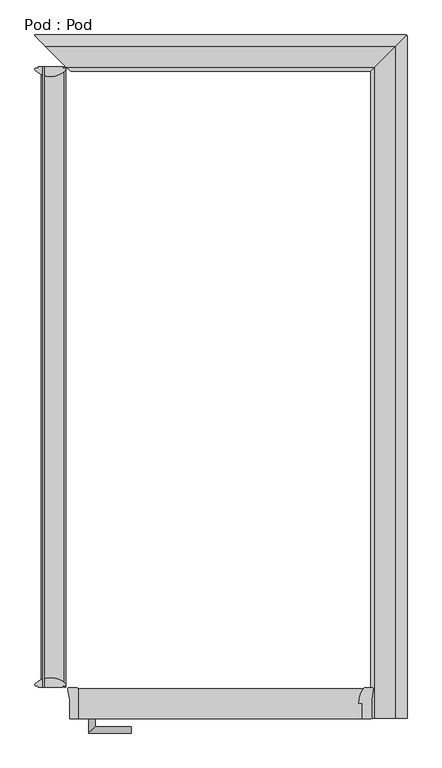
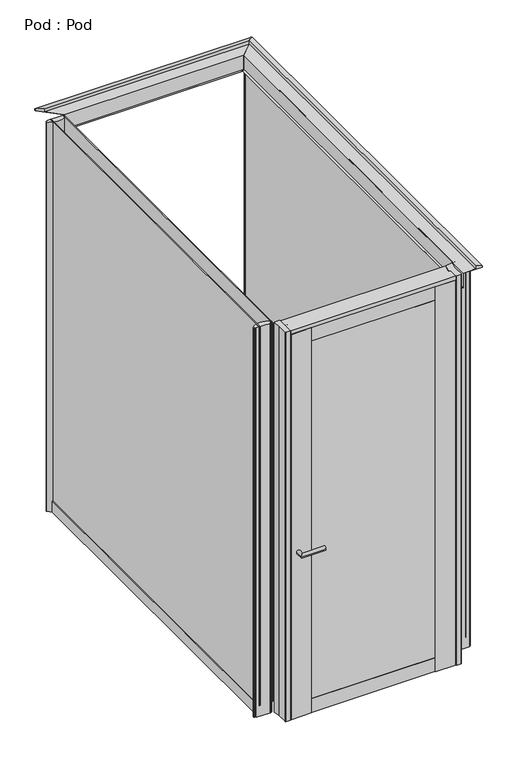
"""IFC4 building model written with IfcOpenShell, lengths in millimetres: furniture geometry, Pod : Pod."""

from ifc_helpers import new_model, si_unit, point, frame, frame_2d, origin, place, context, project, spatial, polyline, circle_curve, ellipse_curve, trimmed, segment, composite_curve, outline, extrude, source, transform, mapped, element, save
from ifc_brep_helpers import plane_surface, cylinder_surface, revolved_surface, extruded_surface, advanced_brep


def pod_pod_1f5b962f(model_context):
    return source(origin(), model_context, "Body", "SolidModel", [
        extrude(outline(composite_curve([segment(polyline([(435.0, -1000.5), (424.4043081, -1000.5)]), True, "CONTINUOUS"), segment(trimmed(circle_curve(frame_2d((496.7618096, -997.1280891)), 72.4360256), [point((424.4043081, -1000.5))], [point((439.9047305, -952.2476885))], False, "CARTESIAN"), True, "CONTINUOUS"), segment(polyline([(439.9047305, -952.2476885), (465.3741971, -952.2476885)]), True, "CONTINUOUS"), segment(trimmed(circle_curve(frame_2d((461.5364267, -958.3971365)), 7.2487373), [point((465.3741971, -952.2476885))], [point((468.7808901, -958.1482537))], False, "CARTESIAN"), True, "CONTINUOUS"), segment(polyline([(468.7808901, -958.1482537), (463.0, -988.5), (463.0, -1046.5)]), True, "CONTINUOUS"), segment(trimmed(circle_curve(frame_2d((461.0, -1046.5)), 2.0), [point((463.0, -1046.5))], [point((461.0, -1048.5))], False, "CARTESIAN"), True, "CONTINUOUS"), segment(polyline([(461.0, -1048.5), (437.0, -1048.5)]), True, "CONTINUOUS"), segment(trimmed(circle_curve(frame_2d((437.0, -1046.5)), 2.0), [point((437.0, -1048.5))], [point((435.0, -1046.5))], False, "CARTESIAN"), True, "CONTINUOUS"), segment(polyline([(435.0, -1046.5), (435.0, -1000.5)]), True, "CONTINUOUS")], self_intersect=False)), frame((0.0, 0.0, 33.1), z_axis=(0.0, 0.0, 1.0), x_axis=(1.0, 0.0, 0.0)), (0.0, 0.0, 1.0), 2165.0),
        extrude(outline(composite_curve([segment(polyline([(-1048.5, 2177.1), (-1048.5, 2198.1), (-956.5, 2198.1), (-956.5, 2115.1)]), True, "CONTINUOUS"), segment(trimmed(circle_curve(frame_2d((-1002.5535098, 2145.0184581)), 54.9184842), [point((-956.5, 2115.1))], [point((-1002.5, 2090.1))], False, "CARTESIAN"), True, "CONTINUOUS"), segment(polyline([(-1002.5, 2090.1), (-1002.5, 2177.1), (-1048.5, 2177.1)]), True, "CONTINUOUS")], self_intersect=False)), frame((-435.0, 0.0, 0.0), z_axis=(1.0, 0.0, 0.0), x_axis=(0.0, 1.0, 0.0)), (0.0, 0.0, 1.0), 870.0),
        extrude(outline(composite_curve([segment(polyline([(-435.0, -1000.5), (-435.0, -1046.5)]), True, "CONTINUOUS"), segment(trimmed(circle_curve(frame_2d((-437.0, -1046.5)), 2.0), [point((-435.0, -1046.5))], [point((-437.0, -1048.5))], False, "CARTESIAN"), True, "CONTINUOUS"), segment(polyline([(-437.0, -1048.5), (-461.0, -1048.5)]), True, "CONTINUOUS"), segment(trimmed(circle_curve(frame_2d((-461.0, -1046.5)), 2.0), [point((-461.0, -1048.5))], [point((-463.0, -1046.5))], False, "CARTESIAN"), True, "CONTINUOUS"), segment(polyline([(-463.0, -1046.5), (-463.0, -988.5), (-468.7808901, -958.1482537)]), True, "CONTINUOUS"), segment(trimmed(circle_curve(frame_2d((-461.5364267, -958.3971365)), 7.2487373), [point((-468.7808901, -958.1482537))], [point((-465.3741971, -952.2476885))], False, "CARTESIAN"), True, "CONTINUOUS"), segment(polyline([(-465.3741971, -952.2476885), (-439.9047305, -952.2476885)]), True, "CONTINUOUS"), segment(trimmed(circle_curve(frame_2d((-496.7618096, -997.1280891)), 72.4360256), [point((-439.9047305, -952.2476885))], [point((-424.4043081, -1000.5))], False, "CARTESIAN"), True, "CONTINUOUS"), segment(polyline([(-424.4043081, -1000.5), (-435.0, -1000.5)]), True, "CONTINUOUS")], self_intersect=False)), frame((0.0, 0.0, 33.1), z_axis=(0.0, 0.0, 1.0), x_axis=(1.0, 0.0, 0.0)), (0.0, 0.0, 1.0), 2165.0),
        advanced_brep(
        [(-384.5, -1046.5, 953.1), (-404.5, -1046.5, 953.1), (-384.5, -1071.5, 953.1), (-404.5, -1091.5, 953.1), (-274.5, -1071.5, 953.1), (-274.5, -1091.5, 953.1)],
        [
            (0, 1, circle_curve(frame((-394.5, -1046.5, 953.1), z_axis=(0.0, 1.0, 0.0), x_axis=(-1.0000000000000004, 0.0, 0.0)), 10.0)),
            (1, 0, circle_curve(frame((-394.5, -1046.5, 953.1), z_axis=(0.0, 1.0, 0.0), x_axis=(-1.0000000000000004, 0.0, 0.0)), 10.0)),
            (0, 2),
            (2, 3, ellipse_curve(frame((-394.5, -1081.5, 953.1), z_axis=(-0.7071067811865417, 0.7071067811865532, 0.0), x_axis=(0.7071067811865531, 0.707106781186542, 0.0)), 14.1421356, 10.0)),
            (3, 1),
            (3, 2, ellipse_curve(frame((-394.5, -1081.5, 953.1), z_axis=(-0.7071067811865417, 0.7071067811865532, 0.0), x_axis=(0.7071067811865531, 0.707106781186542, 0.0)), 14.1421356, 10.0)),
            (4, 5, circle_curve(frame((-274.5, -1081.5, 953.1), z_axis=(1.0, 0.0, 0.0), x_axis=(0.0, -1.0000000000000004, 0.0)), 10.0)),
            (5, 4, circle_curve(frame((-274.5, -1081.5, 953.1), z_axis=(1.0, 0.0, 0.0), x_axis=(0.0, -1.0000000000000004, 0.0)), 10.0)),
            (2, 4),
            (5, 3),
        ],
        [
            plane_surface(frame((-394.5, -1046.5, 33.1), z_axis=(0.0, 1.0, 0.0), x_axis=(0.0, 0.0, 1.0))),
            cylinder_surface(frame((-394.5, -1046.5, 953.1), z_axis=(0.0, 1.0000000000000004, 0.0), x_axis=(-1.0000000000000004, 0.0, 0.0)), 10.0),
            plane_surface(frame((-274.5, -1081.5, 33.1), z_axis=(1.0, 0.0, 0.0), x_axis=(0.0, 0.0, 1.0))),
            cylinder_surface(frame((-394.5, -1081.5, 953.1), z_axis=(-1.0000000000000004, 0.0, 0.0), x_axis=(0.0, -1.0000000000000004, 0.0)), 10.0),
        ],
        [
            (0, [[1, 2]]),
            (1, [[-1, 3, 4, 5]]),
            (1, [[-2, -5, 6, -3]]),
            (2, [[7, 8]]),
            (3, [[-4, 9, -8, 10]]),
            (3, [[-6, -10, -7, -9]]),
        ],
    ),
        extrude(outline(polyline([(-327.0, -1043.0), (-327.0, -1024.5), (-327.0, -1006.0), (327.0, -1006.0), (327.0, -1043.0), (-327.0, -1043.0)])), frame((0.0, 0.0, 33.1), z_axis=(0.0, 0.0, 1.0), x_axis=(1.0, 0.0, 0.0)), (0.0, 0.0, 1.0), 77.0),
        extrude(outline(polyline([(327.0, -1043.5), (-327.0, -1043.5), (-327.0, -1033.5), (327.0, -1033.5), (327.0, -1043.5)])), frame((0.0, 0.0, 110.1), z_axis=(0.0, 0.0, 1.0), x_axis=(1.0, 0.0, 0.0)), (0.0, 0.0, 1.0), 1987.0),
        extrude(outline(polyline([(-327.0, -1043.0), (-327.0, -1024.5), (-327.0, -1006.0), (327.0, -1006.0), (327.0, -1043.0), (-327.0, -1043.0)])), frame((0.0, 0.0, 2097.1), z_axis=(0.0, 0.0, 1.0), x_axis=(1.0, 0.0, 0.0)), (0.0, 0.0, 1.0), 77.0),
        extrude(outline(polyline([(432.0, -1046.5), (327.0, -1046.5), (327.0, -1002.5), (432.0, -1002.5), (432.0, -1046.5)])), frame((0.0, 0.0, 33.1), z_axis=(0.0, 0.0, 1.0), x_axis=(1.0, 0.0, 0.0)), (0.0, 0.0, 1.0), 2141.0),
        extrude(outline(polyline([(-432.0, -1046.5), (-432.0, -1002.5), (-327.0, -1002.5), (-327.0, -1046.5), (-432.0, -1046.5)])), frame((0.0, 0.0, 33.1), z_axis=(0.0, 0.0, 1.0), x_axis=(1.0, 0.0, 0.0)), (0.0, 0.0, 1.0), 2141.0),
        extrude(outline(polyline([(-545.9401269, -952.0), (-545.9401269, 952.0), (-540.8146387, 952.0), (-540.8146387, -952.0), (-545.9401269, -952.0)])), frame((0.0, 0.0, 93.0665228), z_axis=(0.0, 0.0, 1.0), x_axis=(1.0, 0.0, 0.0)), (0.0, 0.0, 1.0), 2105.0334772),
        extrude(outline(polyline([(474.5, -942.0), (474.5, 942.0), (549.6254882, 942.0), (549.6254882, -942.0), (474.5, -942.0)])), frame((0.0, 0.0, 33.0665228), z_axis=(0.0, 0.0, 1.0), x_axis=(1.0, 0.0, 0.0)), (0.0, 0.0, 1.0), 60.0),
        extrude(outline(polyline([(-474.5, 942.0), (-474.5, -942.0), (-549.6254882, -942.0), (-549.6254882, 942.0), (-474.5, 942.0)])), frame((0.0, 0.0, 33.0665228), z_axis=(0.0, 0.0, 1.0), x_axis=(1.0, 0.0, 0.0)), (0.0, 0.0, 1.0), 60.0),
        extrude(outline(composite_curve([segment(polyline([(569.5, -942.0), (569.5, -944.5)]), True, "CONTINUOUS"), segment(trimmed(circle_curve(frame_2d((567.0, -944.5)), 2.5), [point((569.5, -944.5))], [point((567.0, -947.0))], False, "CARTESIAN"), True, "CONTINUOUS"), segment(polyline([(567.0, -947.0), (562.1155895, -947.0)]), True, "CONTINUOUS"), segment(trimmed(circle_curve(frame_2d((562.1155895, -949.6155895)), 2.6155895), [point((562.1155895, -947.0))], [point((559.5, -949.6155895))], True, "CARTESIAN"), True, "CONTINUOUS"), segment(polyline([(559.5, -949.6155895), (559.5, -952.0), (484.5, -952.0), (484.5, -949.6155895)]), True, "CONTINUOUS"), segment(trimmed(circle_curve(frame_2d((481.8844105, -949.6155895)), 2.6155895), [point((484.5, -949.6155895))], [point((481.8844105, -947.0))], True, "CARTESIAN"), True, "CONTINUOUS"), segment(polyline([(481.8844105, -947.0), (477.0, -947.0)]), True, "CONTINUOUS"), segment(trimmed(circle_curve(frame_2d((477.0, -944.5)), 2.5), [point((477.0, -947.0))], [point((474.5, -944.5))], False, "CARTESIAN"), True, "CONTINUOUS"), segment(polyline([(474.5, -944.5), (474.5, -942.0)]), True, "CONTINUOUS"), segment(trimmed(circle_curve(frame_2d((522.0, -987.4354979)), 65.7315333), [point((474.5, -942.0))], [point((569.5, -942.0))], False, "CARTESIAN"), True, "CONTINUOUS")], self_intersect=False)), frame((0.0, 0.0, 33.0665228), z_axis=(0.0, 0.0, 1.0), x_axis=(1.0, 0.0, 0.0)), (0.0, 0.0, 1.0), 2165.0334772),
        extrude(outline(composite_curve([segment(trimmed(circle_curve(frame_2d((522.0, 987.4354979)), 65.7315333), [point((569.5, 942.0))], [point((474.5, 942.0))], False, "CARTESIAN"), True, "CONTINUOUS"), segment(polyline([(474.5, 942.0), (474.5, 944.5)]), True, "CONTINUOUS"), segment(trimmed(circle_curve(frame_2d((477.0, 944.5)), 2.5), [point((474.5, 944.5))], [point((477.0, 947.0))], False, "CARTESIAN"), True, "CONTINUOUS"), segment(polyline([(477.0, 947.0), (481.8844105, 947.0)]), True, "CONTINUOUS"), segment(trimmed(circle_curve(frame_2d((481.8844105, 949.6155895)), 2.6155895), [point((481.8844105, 947.0))], [point((484.5, 949.6155895))], True, "CARTESIAN"), True, "CONTINUOUS"), segment(polyline([(484.5, 949.6155895), (484.5, 952.0), (559.5, 952.0), (559.5, 949.6155895)]), True, "CONTINUOUS"), segment(trimmed(circle_curve(frame_2d((562.1155895, 949.6155895)), 2.6155895), [point((559.5, 949.6155895))], [point((562.1155895, 947.0))], True, "CARTESIAN"), True, "CONTINUOUS"), segment(polyline([(562.1155895, 947.0), (567.0, 947.0)]), True, "CONTINUOUS"), segment(trimmed(circle_curve(frame_2d((567.0, 944.5)), 2.5), [point((567.0, 947.0))], [point((569.5, 944.5))], False, "CARTESIAN"), True, "CONTINUOUS"), segment(polyline([(569.5, 944.5), (569.5, 942.0)]), True, "CONTINUOUS")], self_intersect=False)), frame((0.0, 0.0, 33.0665228), z_axis=(0.0, 0.0, 1.0), x_axis=(1.0, 0.0, 0.0)), (0.0, 0.0, 1.0), 2165.0334772),
        extrude(outline(composite_curve([segment(trimmed(circle_curve(frame_2d((-522.0, -987.4354979)), 65.7315333), [point((-569.5, -942.0))], [point((-474.5, -942.0))], False, "CARTESIAN"), True, "CONTINUOUS"), segment(polyline([(-474.5, -942.0), (-474.5, -944.5)]), True, "CONTINUOUS"), segment(trimmed(circle_curve(frame_2d((-477.0, -944.5)), 2.5), [point((-474.5, -944.5))], [point((-477.0, -947.0))], False, "CARTESIAN"), True, "CONTINUOUS"), segment(polyline([(-477.0, -947.0), (-481.8844105, -947.0)]), True, "CONTINUOUS"), segment(trimmed(circle_curve(frame_2d((-481.8844105, -949.6155895)), 2.6155895), [point((-481.8844105, -947.0))], [point((-484.5, -949.6155895))], True, "CARTESIAN"), True, "CONTINUOUS"), segment(polyline([(-484.5, -949.6155895), (-484.5, -952.0), (-559.5, -952.0), (-559.5, -949.6155895)]), True, "CONTINUOUS"), segment(trimmed(circle_curve(frame_2d((-562.1155895, -949.6155895)), 2.6155895), [point((-559.5, -949.6155895))], [point((-562.1155895, -947.0))], True, "CARTESIAN"), True, "CONTINUOUS"), segment(polyline([(-562.1155895, -947.0), (-567.0, -947.0)]), True, "CONTINUOUS"), segment(trimmed(circle_curve(frame_2d((-567.0, -944.5)), 2.5), [point((-567.0, -947.0))], [point((-569.5, -944.5))], False, "CARTESIAN"), True, "CONTINUOUS"), segment(polyline([(-569.5, -944.5), (-569.5, -942.0)]), True, "CONTINUOUS")], self_intersect=False)), frame((0.0, 0.0, 33.0665228), z_axis=(0.0, 0.0, 1.0), x_axis=(1.0, 0.0, 0.0)), (0.0, 0.0, 1.0), 2165.0334772),
        extrude(outline(composite_curve([segment(polyline([(-569.5, 942.0), (-569.5, 944.5)]), True, "CONTINUOUS"), segment(trimmed(circle_curve(frame_2d((-567.0, 944.5)), 2.5), [point((-569.5, 944.5))], [point((-567.0, 947.0))], False, "CARTESIAN"), True, "CONTINUOUS"), segment(polyline([(-567.0, 947.0), (-562.1155895, 947.0)]), True, "CONTINUOUS"), segment(trimmed(circle_curve(frame_2d((-562.1155895, 949.6155895)), 2.6155895), [point((-562.1155895, 947.0))], [point((-559.5, 949.6155895))], True, "CARTESIAN"), True, "CONTINUOUS"), segment(polyline([(-559.5, 949.6155895), (-559.5, 952.0), (-484.5, 952.0), (-484.5, 949.6155895)]), True, "CONTINUOUS"), segment(trimmed(circle_curve(frame_2d((-481.8844105, 949.6155895)), 2.6155895), [point((-484.5, 949.6155895))], [point((-481.8844105, 947.0))], True, "CARTESIAN"), True, "CONTINUOUS"), segment(polyline([(-481.8844105, 947.0), (-477.0, 947.0)]), True, "CONTINUOUS"), segment(trimmed(circle_curve(frame_2d((-477.0, 944.5)), 2.5), [point((-477.0, 947.0))], [point((-474.5, 944.5))], False, "CARTESIAN"), True, "CONTINUOUS"), segment(polyline([(-474.5, 944.5), (-474.5, 942.0)]), True, "CONTINUOUS"), segment(trimmed(circle_curve(frame_2d((-522.0, 987.4354979)), 65.7315333), [point((-474.5, 942.0))], [point((-569.5, 942.0))], False, "CARTESIAN"), True, "CONTINUOUS")], self_intersect=False)), frame((0.0, 0.0, 33.0665228), z_axis=(0.0, 0.0, 1.0), x_axis=(1.0, 0.0, 0.0)), (0.0, 0.0, 1.0), 2165.0334772),
        extrude(outline(polyline([(479.6254882, 952.0), (479.6254882, -952.0), (474.5, -952.0), (474.5, 952.0), (479.6254882, 952.0)])), frame((0.0, 0.0, 93.0665228), z_axis=(0.0, 0.0, 1.0), x_axis=(1.0, 0.0, 0.0)), (0.0, 0.0, 1.0), 2105.0334772),
        extrude(outline(polyline([(545.9401269, 952.0), (545.9401269, -952.0), (540.8146387, -952.0), (540.8146387, 952.0), (545.9401269, 952.0)])), frame((0.0, 0.0, 93.0665228), z_axis=(0.0, 0.0, 1.0), x_axis=(1.0, 0.0, 0.0)), (0.0, 0.0, 1.0), 2105.0334772),
        extrude(outline(polyline([(-479.6254882, -952.0), (-479.6254882, 952.0), (-474.5, 952.0), (-474.5, -952.0), (-479.6254882, -952.0)])), frame((0.0, 0.0, 93.0665228), z_axis=(0.0, 0.0, 1.0), x_axis=(1.0, 0.0, 0.0)), (0.0, 0.0, 1.0), 2105.0334772),
        advanced_brep(
        [(6.0, 949.5162003, 1198.8848009), (9.4198139, 949.5162003, 1202.3046148), (9.4198139, 949.5162003, 1205.4649871), (6.0, 949.5162003, 1208.8848009), (1.8721647, 949.5162003, 1208.8848009), (-2.0325047, 949.5162003, 1212.7894703), (-2.0325047, 949.5162003, 1223.8848009), (-7.0325047, 949.5162003, 1228.8848009), (-9.1278676, 949.5162003, 1228.8848009), (-14.1278676, 949.5162003, 1223.8848009), (-14.1278676, 949.5162003, 1212.7894703), (-18.0325369, 949.5162003, 1208.8848009), (-22.1603722, 949.5162003, 1208.8848009), (-25.5801861, 949.5162003, 1205.4649871), (-25.5801861, 949.5162003, 1202.3046148), (-22.1603722, 949.5162003, 1198.8848009), (-14.1278676, 949.5162003, 1204.0369225), (-21.9496616, 949.5162003, 1204.0369225), (-2.0325047, 949.5162003, 1204.0369225), (5.7892894, 949.5162003, 1204.0369225), (-7.9291063, 949.5162003, 1216.9987012), (-7.9291063, 949.5162003, 1224.8204952), (6.0, 952.0, 1198.8848009), (-22.1603722, 952.0, 1198.8848009), (-25.5801861, 952.0, 1202.3046148), (-25.5801861, 952.0, 1205.4649871), (-22.1603722, 952.0, 1208.8848009), (-18.0325369, 952.0, 1208.8848009), (-14.1278676, 952.0, 1212.7894703), (-14.1278676, 952.0, 1223.8848009), (-9.1278676, 952.0, 1228.8848009), (-7.0325047, 952.0, 1228.8848009), (-2.0325047, 952.0, 1223.8848009), (-2.0325047, 952.0, 1212.7894703), (1.8721647, 952.0, 1208.8848009), (6.0, 952.0, 1208.8848009), (9.4198139, 952.0, 1205.4649871), (9.4198139, 952.0, 1202.3046148), (-14.1278676, 952.0, 1204.0369225), (-21.9496616, 952.0, 1204.0369225), (-2.0325047, 952.0, 1204.0369225), (5.7892894, 952.0, 1204.0369225), (-7.9291063, 952.0, 1216.9987012), (-7.9291063, 952.0, 1224.8204952)],
        [
            (0, 1, circle_curve(frame((6.0, 949.5162003, 1202.3046148), z_axis=(0.0, -1.0, 0.0), x_axis=(-1.0, 0.0, 0.0)), 3.4198139)),
            (1, 2),
            (2, 3, circle_curve(frame((6.0, 949.5162003, 1205.4649871), z_axis=(0.0, -1.0, 0.0), x_axis=(-1.0, 0.0, 0.0)), 3.4198139)),
            (3, 4),
            (4, 5, circle_curve(frame((1.8721647, 949.5162003, 1212.7894703), z_axis=(0.0, 1.0, 0.0), x_axis=(-1.0, 0.0, 0.0)), 3.9046693)),
            (5, 6),
            (6, 7, circle_curve(frame((-7.0325047, 949.5162003, 1223.8848009), z_axis=(0.0, -1.0, 0.0), x_axis=(-1.0, 0.0, 0.0)), 5.0)),
            (7, 8),
            (8, 9, circle_curve(frame((-9.1278676, 949.5162003, 1223.8848009), z_axis=(0.0, -1.0, 0.0), x_axis=(-1.0, 0.0, 0.0)), 5.0)),
            (9, 10),
            (10, 11, circle_curve(frame((-18.0325369, 949.5162003, 1212.7894703), z_axis=(0.0, 1.0, 0.0), x_axis=(-1.0, 0.0, 0.0)), 3.9046693)),
            (11, 12),
            (12, 13, circle_curve(frame((-22.1603722, 949.5162003, 1205.4649871), z_axis=(0.0, -1.0, 0.0), x_axis=(-1.0, 0.0, 0.0)), 3.4198139)),
            (13, 14),
            (14, 15, circle_curve(frame((-22.1603722, 949.5162003, 1202.3046148), z_axis=(0.0, -1.0, 0.0), x_axis=(-1.0, 0.0, 0.0)), 3.4198139)),
            (15, 0),
            (16, 17, ellipse_curve(frame((-18.0387646, 949.5162003, 1204.0369225), z_axis=(0.0, 1.0, 0.0), x_axis=(-1.0, 0.0, 0.0)), 3.910897, 1.7393415)),
            (17, 16, ellipse_curve(frame((-18.0387646, 949.5162003, 1204.0369225), z_axis=(0.0, 1.0, 0.0), x_axis=(-1.0, 0.0, 0.0)), 3.910897, 1.7393415)),
            (18, 19, ellipse_curve(frame((1.8783923, 949.5162003, 1204.0369225), z_axis=(0.0, 1.0, 0.0), x_axis=(1.0, 0.0, 0.0)), 3.910897, 1.7393415)),
            (19, 18, ellipse_curve(frame((1.8783923, 949.5162003, 1204.0369225), z_axis=(0.0, 1.0, 0.0), x_axis=(1.0, 0.0, 0.0)), 3.910897, 1.7393415)),
            (20, 21, ellipse_curve(frame((-7.9291063, 949.5162003, 1220.9095982), z_axis=(0.0, 1.0, 0.0), x_axis=(0.0, 0.0, 1.0)), 3.910897, 1.7393415)),
            (21, 20, ellipse_curve(frame((-7.9291063, 949.5162003, 1220.9095982), z_axis=(0.0, 1.0, 0.0), x_axis=(0.0, 0.0, 1.0)), 3.910897, 1.7393415)),
            (22, 23),
            (23, 24, circle_curve(frame((-22.1603722, 952.0, 1202.3046148), z_axis=(0.0, 1.0, 0.0), x_axis=(-1.0, 0.0, 0.0)), 3.4198139)),
            (24, 25),
            (25, 26, circle_curve(frame((-22.1603722, 952.0, 1205.4649871), z_axis=(0.0, 1.0, 0.0), x_axis=(-1.0, 0.0, 0.0)), 3.4198139)),
            (26, 27),
            (27, 28, circle_curve(frame((-18.0325369, 952.0, 1212.7894703), z_axis=(0.0, -1.0, 0.0), x_axis=(-1.0, 0.0, 0.0)), 3.9046693)),
            (28, 29),
            (29, 30, circle_curve(frame((-9.1278676, 952.0, 1223.8848009), z_axis=(0.0, 1.0, 0.0), x_axis=(-1.0, 0.0, 0.0)), 5.0)),
            (30, 31),
            (31, 32, circle_curve(frame((-7.0325047, 952.0, 1223.8848009), z_axis=(0.0, 1.0, 0.0), x_axis=(-1.0, 0.0, 0.0)), 5.0)),
            (32, 33),
            (33, 34, circle_curve(frame((1.8721647, 952.0, 1212.7894703), z_axis=(0.0, -1.0, 0.0), x_axis=(-1.0, 0.0, 0.0)), 3.9046693)),
            (34, 35),
            (35, 36, circle_curve(frame((6.0, 952.0, 1205.4649871), z_axis=(0.0, 1.0, 0.0), x_axis=(-1.0, 0.0, 0.0)), 3.4198139)),
            (36, 37),
            (37, 22, circle_curve(frame((6.0, 952.0, 1202.3046148), z_axis=(0.0, 1.0, 0.0), x_axis=(-1.0, 0.0, 0.0)), 3.4198139)),
            (38, 39, ellipse_curve(frame((-18.0387646, 952.0, 1204.0369225), z_axis=(0.0, -1.0, 0.0), x_axis=(-1.0, 0.0, 0.0)), 3.910897, 1.7393415)),
            (39, 38, ellipse_curve(frame((-18.0387646, 952.0, 1204.0369225), z_axis=(0.0, -1.0, 0.0), x_axis=(-1.0, 0.0, 0.0)), 3.910897, 1.7393415)),
            (40, 41, ellipse_curve(frame((1.8783923, 952.0, 1204.0369225), z_axis=(0.0, -1.0, 0.0), x_axis=(1.0, 0.0, 0.0)), 3.910897, 1.7393415)),
            (41, 40, ellipse_curve(frame((1.8783923, 952.0, 1204.0369225), z_axis=(0.0, -1.0, 0.0), x_axis=(1.0, 0.0, 0.0)), 3.910897, 1.7393415)),
            (42, 43, ellipse_curve(frame((-7.9291063, 952.0, 1220.9095982), z_axis=(0.0, -1.0, 0.0), x_axis=(0.0, 0.0, 1.0)), 3.910897, 1.7393415)),
            (43, 42, ellipse_curve(frame((-7.9291063, 952.0, 1220.9095982), z_axis=(0.0, -1.0, 0.0), x_axis=(0.0, 0.0, 1.0)), 3.910897, 1.7393415)),
            (0, 22),
            (37, 1),
            (36, 2),
            (35, 3),
            (34, 4),
            (33, 5),
            (32, 6),
            (31, 7),
            (30, 8),
            (29, 9),
            (28, 10),
            (27, 11),
            (26, 12),
            (25, 13),
            (24, 14),
            (23, 15),
            (16, 38),
            (39, 17),
            (18, 40),
            (41, 19),
            (20, 42),
            (43, 21),
        ],
        [
            plane_surface(frame((2.5801861, 949.5162003, 1202.3046148), z_axis=(0.0, -1.0, 0.0), x_axis=(0.0, 0.0, -1.0))),
            plane_surface(frame((2.5801861, 952.0, 1202.3046148), z_axis=(0.0, 1.0, 0.0), x_axis=(0.0, 0.0, 1.0))),
            cylinder_surface(frame((6.0, 952.0, 1202.3046148), z_axis=(0.0, -1.0, 0.0), x_axis=(-1.0, 0.0, 0.0)), 3.4198139),
            plane_surface(frame((9.4198139, 949.5162003, 1202.3046148), z_axis=(1.0, 0.0, 0.0), x_axis=(0.0, 1.0, 0.0))),
            cylinder_surface(frame((6.0, 952.0, 1205.4649871), z_axis=(0.0, -1.0, 0.0), x_axis=(-1.0, 0.0, 0.0)), 3.4198139),
            plane_surface(frame((6.0, 949.5162003, 1208.8848009), z_axis=(0.0, 0.0, 1.0), x_axis=(0.0, 1.0, 0.0))),
            revolved_surface(polyline([(-2.0325046, 952.0, 1212.7894703), (-2.0325046, 949.5162003, 1212.7894703)]), (1.8721647, 952.0, 1212.7894703), (0.0, 1.0, 0.0)),
            plane_surface(frame((-2.0325047, 949.5162003, 1212.7894703), z_axis=(1.0, 0.0, 0.0), x_axis=(0.0, 1.0, 0.0))),
            cylinder_surface(frame((-7.0325047, 952.0, 1223.8848009), z_axis=(0.0, -1.0, 0.0), x_axis=(-1.0, 0.0, 0.0)), 5.0),
            plane_surface(frame((-7.0325047, 949.5162003, 1228.8848009), z_axis=(0.0, 0.0, 1.0), x_axis=(0.0, 1.0, 0.0))),
            cylinder_surface(frame((-9.1278676, 952.0, 1223.8848009), z_axis=(0.0, -1.0, 0.0), x_axis=(-1.0, 0.0, 0.0)), 5.0),
            plane_surface(frame((-14.1278676, 949.5162003, 1223.8848009), z_axis=(-1.0, 0.0, 0.0), x_axis=(0.0, 1.0, 0.0))),
            revolved_surface(polyline([(-21.9372062, 952.0, 1212.7894703), (-21.9372062, 949.5162003, 1212.7894703)]), (-18.0325369, 952.0, 1212.7894703), (0.0, 1.0, 0.0)),
            plane_surface(frame((-18.0325369, 949.5162003, 1208.8848009), z_axis=(0.0, 0.0, 1.0), x_axis=(0.0, 1.0, 0.0))),
            cylinder_surface(frame((-22.1603722, 952.0, 1205.4649871), z_axis=(0.0, -1.0, 0.0), x_axis=(-1.0, 0.0, 0.0)), 3.4198139),
            plane_surface(frame((-25.5801861, 949.5162003, 1205.4649871), z_axis=(-1.0, 0.0, 0.0), x_axis=(0.0, 1.0, 0.0))),
            cylinder_surface(frame((-22.1603722, 952.0, 1202.3046148), z_axis=(0.0, -1.0, 0.0), x_axis=(-1.0, 0.0, 0.0)), 3.4198139),
            plane_surface(frame((-22.1603722, 949.5162003, 1198.8848009), z_axis=(0.0, 0.0, -1.0), x_axis=(0.0, 1.0, 0.0))),
            extruded_surface(trimmed(ellipse_curve(frame((-18.0387646, -572.2080654, 1204.0369225), z_axis=(0.0, 1.0, 0.0), x_axis=(-1.0, 0.0, 0.0)), 3.910897, 1.7393415), [point((-14.1278676, -572.2080654, 1204.0369225))], [point((-21.9496616, -572.2080654, 1204.0369225))], True, "CARTESIAN"), (0.0, -2.483799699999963, 0.0), 2.483799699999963),
            extruded_surface(trimmed(ellipse_curve(frame((-18.0387646, -572.2080654, 1204.0369225), z_axis=(0.0, 1.0, 0.0), x_axis=(-1.0, 0.0, 0.0)), 3.910897, 1.7393415), [point((-21.9496616, -572.2080654, 1204.0369225))], [point((-14.1278676, -572.2080654, 1204.0369225))], True, "CARTESIAN"), (0.0, -2.483799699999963, 0.0), 2.483799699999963),
            extruded_surface(trimmed(ellipse_curve(frame((1.8783923, -572.2080654, 1204.0369225), z_axis=(0.0, 1.0, 0.0), x_axis=(1.0, 0.0, 0.0)), 3.910897, 1.7393415), [point((-2.0325047, -572.2080654, 1204.0369225))], [point((5.7892894, -572.2080654, 1204.0369225))], True, "CARTESIAN"), (0.0, -2.483799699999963, 0.0), 2.483799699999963),
            extruded_surface(trimmed(ellipse_curve(frame((1.8783923, -572.2080654, 1204.0369225), z_axis=(0.0, 1.0, 0.0), x_axis=(1.0, 0.0, 0.0)), 3.910897, 1.7393415), [point((5.7892894, -572.2080654, 1204.0369225))], [point((-2.0325047, -572.2080654, 1204.0369225))], True, "CARTESIAN"), (0.0, -2.483799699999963, 0.0), 2.483799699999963),
            extruded_surface(trimmed(ellipse_curve(frame((-7.9291063, -572.2080654, 1220.9095982), z_axis=(0.0, 1.0, 0.0), x_axis=(0.0, 0.0, 1.0)), 3.910897, 1.7393415), [point((-7.9291063, -572.2080654, 1216.9987012))], [point((-7.9291063, -572.2080654, 1224.8204952))], True, "CARTESIAN"), (0.0, -2.483799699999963, 0.0), 2.483799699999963),
            extruded_surface(trimmed(ellipse_curve(frame((-7.9291063, -572.2080654, 1220.9095982), z_axis=(0.0, 1.0, 0.0), x_axis=(0.0, 0.0, 1.0)), 3.910897, 1.7393415), [point((-7.9291063, -572.2080654, 1224.8204952))], [point((-7.9291063, -572.2080654, 1216.9987012))], True, "CARTESIAN"), (0.0, -2.483799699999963, 0.0), 2.483799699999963),
        ],
        [
            (0, [[1, 2, 3, 4, 5, 6, 7, 8, 9, 10, 11, 12, 13, 14, 15, 16], [17, 18], [19, 20], [21, 22]]),
            (1, [[23, 24, 25, 26, 27, 28, 29, 30, 31, 32, 33, 34, 35, 36, 37, 38], [39, 40], [41, 42], [43, 44]]),
            (2, [[-1, 45, -38, 46]]),
            (3, [[-2, -46, -37, 47]]),
            (4, [[-3, -47, -36, 48]]),
            (5, [[-4, -48, -35, 49]]),
            (6, [[-5, -49, -34, 50]]),
            (7, [[-6, -50, -33, 51]]),
            (8, [[-7, -51, -32, 52]]),
            (9, [[-8, -52, -31, 53]]),
            (10, [[-9, -53, -30, 54]]),
            (11, [[-10, -54, -29, 55]]),
            (12, [[-11, -55, -28, 56]]),
            (13, [[-12, -56, -27, 57]]),
            (14, [[-13, -57, -26, 58]]),
            (15, [[-14, -58, -25, 59]]),
            (16, [[-15, -59, -24, 60]]),
            (17, [[-16, -60, -23, -45]]),
            (18, [[-17, 61, -40, 62]]),
            (19, [[-18, -62, -39, -61]]),
            (20, [[-19, 63, -42, 64]]),
            (21, [[-20, -64, -41, -63]]),
            (22, [[-21, 65, -44, 66]]),
            (23, [[-22, -66, -43, -65]]),
        ],
    ),
        advanced_brep(
        [(-53.7027804, 949.5162003, 1198.8848009), (-50.2829665, 949.5162003, 1202.3046148), (-50.2829665, 949.5162003, 1205.4649871), (-53.7027804, 949.5162003, 1208.8848009), (-57.8306157, 949.5162003, 1208.8848009), (-61.7352851, 949.5162003, 1212.7894703), (-61.7352851, 949.5162003, 1223.8848009), (-66.7352851, 949.5162003, 1228.8848009), (-69.7451829, 949.5162003, 1228.8848009), (-74.7451829, 949.5162003, 1223.8848009), (-74.7451829, 949.5162003, 1212.7894703), (-78.6498522, 949.5162003, 1208.8848009), (-81.8631526, 949.5162003, 1208.8848009), (-85.2829665, 949.5162003, 1205.4649871), (-85.2829665, 949.5162003, 1202.3046148), (-81.8631526, 949.5162003, 1198.8848009), (-73.830648, 949.5162003, 1204.0369225), (-81.652442, 949.5162003, 1204.0369225), (-61.7352851, 949.5162003, 1204.0369225), (-53.913491, 949.5162003, 1204.0369225), (-67.6318867, 949.5162003, 1216.9987012), (-67.6318867, 949.5162003, 1224.8204952), (-53.7027804, 952.0, 1198.8848009), (-81.8631526, 952.0, 1198.8848009), (-85.2829665, 952.0, 1202.3046148), (-85.2829665, 952.0, 1205.4649871), (-81.8631526, 952.0, 1208.8848009), (-78.6498522, 952.0, 1208.8848009), (-74.7451829, 952.0, 1212.7894703), (-74.7451829, 952.0, 1223.8848009), (-69.7451829, 952.0, 1228.8848009), (-66.7352851, 952.0, 1228.8848009), (-61.7352851, 952.0, 1223.8848009), (-61.7352851, 952.0, 1212.7894703), (-57.8306157, 952.0, 1208.8848009), (-53.7027804, 952.0, 1208.8848009), (-50.2829665, 952.0, 1205.4649871), (-50.2829665, 952.0, 1202.3046148), (-73.830648, 952.0, 1204.0369225), (-81.652442, 952.0, 1204.0369225), (-61.7352851, 952.0, 1204.0369225), (-53.913491, 952.0, 1204.0369225), (-67.6318867, 952.0, 1216.9987012), (-67.6318867, 952.0, 1224.8204952)],
        [
            (0, 1, circle_curve(frame((-53.7027804, 949.5162003, 1202.3046148), z_axis=(0.0, -1.0, 0.0), x_axis=(-1.0, 0.0, 0.0)), 3.4198139)),
            (1, 2),
            (2, 3, circle_curve(frame((-53.7027804, 949.5162003, 1205.4649871), z_axis=(0.0, -1.0, 0.0), x_axis=(-1.0, 0.0, 0.0)), 3.4198139)),
            (3, 4),
            (4, 5, circle_curve(frame((-57.8306157, 949.5162003, 1212.7894703), z_axis=(0.0, 1.0, 0.0), x_axis=(-1.0, 0.0, 0.0)), 3.9046693)),
            (5, 6),
            (6, 7, circle_curve(frame((-66.7352851, 949.5162003, 1223.8848009), z_axis=(0.0, -1.0, 0.0), x_axis=(-1.0, 0.0, 0.0)), 5.0)),
            (7, 8),
            (8, 9, circle_curve(frame((-69.7451829, 949.5162003, 1223.8848009), z_axis=(0.0, -1.0, 0.0), x_axis=(-1.0, 0.0, 0.0)), 5.0)),
            (9, 10),
            (10, 11, circle_curve(frame((-78.6498522, 949.5162003, 1212.7894703), z_axis=(0.0, 1.0, 0.0), x_axis=(-1.0, 0.0, 0.0)), 3.9046693)),
            (11, 12),
            (12, 13, circle_curve(frame((-81.8631526, 949.5162003, 1205.4649871), z_axis=(0.0, -1.0, 0.0), x_axis=(-1.0, 0.0, 0.0)), 3.4198139)),
            (13, 14),
            (14, 15, circle_curve(frame((-81.8631526, 949.5162003, 1202.3046148), z_axis=(0.0, -1.0, 0.0), x_axis=(-1.0, 0.0, 0.0)), 3.4198139)),
            (15, 0),
            (16, 17, ellipse_curve(frame((-77.741545, 949.5162003, 1204.0369225), z_axis=(0.0, 1.0, 0.0), x_axis=(-1.0, 0.0, 0.0)), 3.910897, 1.7393415)),
            (17, 16, ellipse_curve(frame((-77.741545, 949.5162003, 1204.0369225), z_axis=(0.0, 1.0, 0.0), x_axis=(-1.0, 0.0, 0.0)), 3.910897, 1.7393415)),
            (18, 19, ellipse_curve(frame((-57.824388, 949.5162003, 1204.0369225), z_axis=(0.0, 1.0, 0.0), x_axis=(1.0, 0.0, 0.0)), 3.910897, 1.7393415)),
            (19, 18, ellipse_curve(frame((-57.824388, 949.5162003, 1204.0369225), z_axis=(0.0, 1.0, 0.0), x_axis=(1.0, 0.0, 0.0)), 3.910897, 1.7393415)),
            (20, 21, ellipse_curve(frame((-67.6318867, 949.5162003, 1220.9095982), z_axis=(0.0, 1.0, 0.0), x_axis=(0.0, 0.0, 1.0)), 3.910897, 1.7393415)),
            (21, 20, ellipse_curve(frame((-67.6318867, 949.5162003, 1220.9095982), z_axis=(0.0, 1.0, 0.0), x_axis=(0.0, 0.0, 1.0)), 3.910897, 1.7393415)),
            (22, 23),
            (23, 24, circle_curve(frame((-81.8631526, 952.0, 1202.3046148), z_axis=(0.0, 1.0, 0.0), x_axis=(-1.0, 0.0, 0.0)), 3.4198139)),
            (24, 25),
            (25, 26, circle_curve(frame((-81.8631526, 952.0, 1205.4649871), z_axis=(0.0, 1.0, 0.0), x_axis=(-1.0, 0.0, 0.0)), 3.4198139)),
            (26, 27),
            (27, 28, circle_curve(frame((-78.6498522, 952.0, 1212.7894703), z_axis=(0.0, -1.0, 0.0), x_axis=(-1.0, 0.0, 0.0)), 3.9046693)),
            (28, 29),
            (29, 30, circle_curve(frame((-69.7451829, 952.0, 1223.8848009), z_axis=(0.0, 1.0, 0.0), x_axis=(-1.0, 0.0, 0.0)), 5.0)),
            (30, 31),
            (31, 32, circle_curve(frame((-66.7352851, 952.0, 1223.8848009), z_axis=(0.0, 1.0, 0.0), x_axis=(-1.0, 0.0, 0.0)), 5.0)),
            (32, 33),
            (33, 34, circle_curve(frame((-57.8306157, 952.0, 1212.7894703), z_axis=(0.0, -1.0, 0.0), x_axis=(-1.0, 0.0, 0.0)), 3.9046693)),
            (34, 35),
            (35, 36, circle_curve(frame((-53.7027804, 952.0, 1205.4649871), z_axis=(0.0, 1.0, 0.0), x_axis=(-1.0, 0.0, 0.0)), 3.4198139)),
            (36, 37),
            (37, 22, circle_curve(frame((-53.7027804, 952.0, 1202.3046148), z_axis=(0.0, 1.0, 0.0), x_axis=(-1.0, 0.0, 0.0)), 3.4198139)),
            (38, 39, ellipse_curve(frame((-77.741545, 952.0, 1204.0369225), z_axis=(0.0, -1.0, 0.0), x_axis=(-1.0, 0.0, 0.0)), 3.910897, 1.7393415)),
            (39, 38, ellipse_curve(frame((-77.741545, 952.0, 1204.0369225), z_axis=(0.0, -1.0, 0.0), x_axis=(-1.0, 0.0, 0.0)), 3.910897, 1.7393415)),
            (40, 41, ellipse_curve(frame((-57.824388, 952.0, 1204.0369225), z_axis=(0.0, -1.0, 0.0), x_axis=(1.0, 0.0, 0.0)), 3.910897, 1.7393415)),
            (41, 40, ellipse_curve(frame((-57.824388, 952.0, 1204.0369225), z_axis=(0.0, -1.0, 0.0), x_axis=(1.0, 0.0, 0.0)), 3.910897, 1.7393415)),
            (42, 43, ellipse_curve(frame((-67.6318867, 952.0, 1220.9095982), z_axis=(0.0, -1.0, 0.0), x_axis=(0.0, 0.0, 1.0)), 3.910897, 1.7393415)),
            (43, 42, ellipse_curve(frame((-67.6318867, 952.0, 1220.9095982), z_axis=(0.0, -1.0, 0.0), x_axis=(0.0, 0.0, 1.0)), 3.910897, 1.7393415)),
            (0, 22),
            (37, 1),
            (36, 2),
            (35, 3),
            (34, 4),
            (33, 5),
            (32, 6),
            (31, 7),
            (30, 8),
            (29, 9),
            (28, 10),
            (27, 11),
            (26, 12),
            (25, 13),
            (24, 14),
            (23, 15),
            (16, 38),
            (39, 17),
            (18, 40),
            (41, 19),
            (20, 42),
            (43, 21),
        ],
        [
            plane_surface(frame((-57.1225943, 949.5162003, 1202.3046148), z_axis=(0.0, -1.0, 0.0), x_axis=(0.0, 0.0, -1.0))),
            plane_surface(frame((-57.1225943, 952.0, 1202.3046148), z_axis=(0.0, 1.0, 0.0), x_axis=(0.0, 0.0, 1.0))),
            cylinder_surface(frame((-53.7027804, 952.0, 1202.3046148), z_axis=(0.0, -1.0, 0.0), x_axis=(-1.0, 0.0, 0.0)), 3.4198139),
            plane_surface(frame((-50.2829665, 949.5162003, 1202.3046148), z_axis=(1.0, 0.0, 0.0), x_axis=(0.0, 1.0, 0.0))),
            cylinder_surface(frame((-53.7027804, 952.0, 1205.4649871), z_axis=(0.0, -1.0, 0.0), x_axis=(-1.0, 0.0, 0.0)), 3.4198139),
            plane_surface(frame((-53.7027804, 949.5162003, 1208.8848009), z_axis=(0.0, 0.0, 1.0), x_axis=(0.0, 1.0, 0.0))),
            revolved_surface(polyline([(-61.735285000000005, 952.0, 1212.7894703), (-61.735285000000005, 949.5162003, 1212.7894703)]), (-57.8306157, 952.0, 1212.7894703), (0.0, 1.0, 0.0)),
            plane_surface(frame((-61.7352851, 949.5162003, 1212.7894703), z_axis=(1.0, 0.0, 0.0), x_axis=(0.0, 1.0, 0.0))),
            cylinder_surface(frame((-66.7352851, 952.0, 1223.8848009), z_axis=(0.0, -1.0, 0.0), x_axis=(-1.0, 0.0, 0.0)), 5.0),
            plane_surface(frame((-66.7352851, 949.5162003, 1228.8848009), z_axis=(0.0, 0.0, 1.0), x_axis=(0.0, 1.0, 0.0))),
            cylinder_surface(frame((-69.7451829, 952.0, 1223.8848009), z_axis=(0.0, -1.0, 0.0), x_axis=(-1.0, 0.0, 0.0)), 5.0),
            plane_surface(frame((-74.7451829, 949.5162003, 1223.8848009), z_axis=(-1.0, 0.0, 0.0), x_axis=(0.0, 1.0, 0.0))),
            revolved_surface(polyline([(-82.55452149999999, 952.0, 1212.7894703), (-82.55452149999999, 949.5162003, 1212.7894703)]), (-78.6498522, 952.0, 1212.7894703), (0.0, 1.0, 0.0)),
            plane_surface(frame((-78.6498522, 949.5162003, 1208.8848009), z_axis=(0.0, 0.0, 1.0), x_axis=(0.0, 1.0, 0.0))),
            cylinder_surface(frame((-81.8631526, 952.0, 1205.4649871), z_axis=(0.0, -1.0, 0.0), x_axis=(-1.0, 0.0, 0.0)), 3.4198139),
            plane_surface(frame((-85.2829665, 949.5162003, 1205.4649871), z_axis=(-1.0, 0.0, 0.0), x_axis=(0.0, 1.0, 0.0))),
            cylinder_surface(frame((-81.8631526, 952.0, 1202.3046148), z_axis=(0.0, -1.0, 0.0), x_axis=(-1.0, 0.0, 0.0)), 3.4198139),
            plane_surface(frame((-81.8631526, 949.5162003, 1198.8848009), z_axis=(0.0, 0.0, -1.0), x_axis=(0.0, 1.0, 0.0))),
            extruded_surface(trimmed(ellipse_curve(frame((-77.741545, -572.2080654, 1204.0369225), z_axis=(0.0, 1.0, 0.0), x_axis=(-1.0, 0.0, 0.0)), 3.910897, 1.7393415), [point((-73.830648, -572.2080654, 1204.0369225))], [point((-81.652442, -572.2080654, 1204.0369225))], True, "CARTESIAN"), (0.0, -2.483799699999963, 0.0), 2.483799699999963),
            extruded_surface(trimmed(ellipse_curve(frame((-77.741545, -572.2080654, 1204.0369225), z_axis=(0.0, 1.0, 0.0), x_axis=(-1.0, 0.0, 0.0)), 3.910897, 1.7393415), [point((-81.652442, -572.2080654, 1204.0369225))], [point((-73.830648, -572.2080654, 1204.0369225))], True, "CARTESIAN"), (0.0, -2.483799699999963, 0.0), 2.483799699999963),
            extruded_surface(trimmed(ellipse_curve(frame((-57.824388, -572.2080654, 1204.0369225), z_axis=(0.0, 1.0, 0.0), x_axis=(1.0, 0.0, 0.0)), 3.910897, 1.7393415), [point((-61.7352851, -572.2080654, 1204.0369225))], [point((-53.913491, -572.2080654, 1204.0369225))], True, "CARTESIAN"), (0.0, -2.483799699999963, 0.0), 2.483799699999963),
            extruded_surface(trimmed(ellipse_curve(frame((-57.824388, -572.2080654, 1204.0369225), z_axis=(0.0, 1.0, 0.0), x_axis=(1.0, 0.0, 0.0)), 3.910897, 1.7393415), [point((-53.913491, -572.2080654, 1204.0369225))], [point((-61.7352851, -572.2080654, 1204.0369225))], True, "CARTESIAN"), (0.0, -2.483799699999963, 0.0), 2.483799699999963),
            extruded_surface(trimmed(ellipse_curve(frame((-67.6318867, -572.2080654, 1220.9095982), z_axis=(0.0, 1.0, 0.0), x_axis=(0.0, 0.0, 1.0)), 3.910897, 1.7393415), [point((-67.6318867, -572.2080654, 1216.9987012))], [point((-67.6318867, -572.2080654, 1224.8204952))], True, "CARTESIAN"), (0.0, -2.483799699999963, 0.0), 2.483799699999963),
            extruded_surface(trimmed(ellipse_curve(frame((-67.6318867, -572.2080654, 1220.9095982), z_axis=(0.0, 1.0, 0.0), x_axis=(0.0, 0.0, 1.0)), 3.910897, 1.7393415), [point((-67.6318867, -572.2080654, 1224.8204952))], [point((-67.6318867, -572.2080654, 1216.9987012))], True, "CARTESIAN"), (0.0, -2.483799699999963, 0.0), 2.483799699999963),
        ],
        [
            (0, [[1, 2, 3, 4, 5, 6, 7, 8, 9, 10, 11, 12, 13, 14, 15, 16], [17, 18], [19, 20], [21, 22]]),
            (1, [[23, 24, 25, 26, 27, 28, 29, 30, 31, 32, 33, 34, 35, 36, 37, 38], [39, 40], [41, 42], [43, 44]]),
            (2, [[-1, 45, -38, 46]]),
            (3, [[-2, -46, -37, 47]]),
            (4, [[-3, -47, -36, 48]]),
            (5, [[-4, -48, -35, 49]]),
            (6, [[-5, -49, -34, 50]]),
            (7, [[-6, -50, -33, 51]]),
            (8, [[-7, -51, -32, 52]]),
            (9, [[-8, -52, -31, 53]]),
            (10, [[-9, -53, -30, 54]]),
            (11, [[-10, -54, -29, 55]]),
            (12, [[-11, -55, -28, 56]]),
            (13, [[-12, -56, -27, 57]]),
            (14, [[-13, -57, -26, 58]]),
            (15, [[-14, -58, -25, 59]]),
            (16, [[-15, -59, -24, 60]]),
            (17, [[-16, -60, -23, -45]]),
            (18, [[-17, 61, -40, 62]]),
            (19, [[-18, -62, -39, -61]]),
            (20, [[-19, 63, -42, 64]]),
            (21, [[-20, -64, -41, -63]]),
            (22, [[-21, 65, -44, 66]]),
            (23, [[-22, -66, -43, -65]]),
        ],
    ),
        advanced_brep(
        [(572.0, 1047.0, 2206.1749639), (572.0, 1047.0, 2198.1), (569.5, 1047.0, 2198.1), (569.5, 1047.0, 2208.1), (474.5, -1047.0, 2118.1), (474.5, -1047.0, 2198.1), (572.0, -1047.0, 2198.1), (572.0, -1047.0, 2206.1749639), (537.6956885, -1047.0, 2217.8303043), (537.6956885, -1047.0, 2199.7084714), (472.6956885, -1047.0, 2199.7084714), (472.6956885, -1047.0, 2120.5190421), (460.3233646, -1047.0, 2123.3754182), (460.3233646, -1047.0, 2121.3729342), (460.3233646, 937.8233646, 2121.3729342), (474.5, 952.0, 2118.1), (460.3233646, 937.8233646, 2123.3754182), (472.6956885, 950.1956885, 2120.5190421), (472.6956885, 950.1956885, 2199.7084714), (537.6956885, 1015.1956885, 2199.7084714), (537.6956885, 1015.1956885, 2217.8303043), (474.5, 952.0, 2198.1)],
        [
            (0, 1),
            (1, 2),
            (2, 3),
            (3, 0, circle_curve(frame((539.3317973, 1047.0, 2166.3353873), z_axis=(0.0, 1.0, 0.0), x_axis=(1.0, 0.0, 0.0)), 51.5209019)),
            (4, 5),
            (5, 6),
            (6, 7),
            (7, 8, circle_curve(frame((539.3317973, -1047.0, 2166.3353873), z_axis=(0.0, -1.0, 0.0), x_axis=(1.0, 0.0, 0.0)), 51.5209019)),
            (8, 9),
            (9, 10),
            (10, 11),
            (11, 12),
            (12, 13),
            (13, 4),
            (13, 14),
            (14, 15),
            (15, 4),
            (12, 16),
            (16, 14),
            (11, 17),
            (17, 16),
            (10, 18),
            (18, 17),
            (9, 19),
            (19, 18),
            (8, 20),
            (20, 19),
            (7, 0),
            (3, 20, ellipse_curve(frame((539.3317973, 1016.8317973, 2166.3353873), z_axis=(0.7071067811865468, -0.7071067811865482, 0.0), x_axis=(0.7071067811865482, 0.7071067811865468, 0.0)), 72.8615582, 51.5209019)),
            (6, 1),
            (5, 21),
            (21, 2),
            (15, 21),
        ],
        [
            plane_surface(frame((474.5, 1047.0, 2118.1), z_axis=(0.0, 1.0, 0.0), x_axis=(-0.9743700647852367, 0.0, 0.22495105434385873))),
            plane_surface(frame((474.5, -1047.0, 2118.1), z_axis=(0.0, -1.0, 0.0), x_axis=(0.9743700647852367, 0.0, -0.22495105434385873))),
            plane_surface(frame((474.5, 1047.0, 2118.1), z_axis=(-0.22495105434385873, 0.0, -0.9743700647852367), x_axis=(0.0, -1.0, 0.0))),
            plane_surface(frame((460.3233646, 1047.0, 2121.3729342), z_axis=(-1.0, 0.0, 0.0), x_axis=(0.0, -1.0, 0.0))),
            plane_surface(frame((460.3233646, 1047.0, 2123.3754182), z_axis=(0.2249510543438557, 0.0, 0.9743700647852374), x_axis=(0.0, -1.0, 0.0))),
            plane_surface(frame((472.6956885, 1047.0, 2120.5190421), z_axis=(-1.0, 0.0, 0.0), x_axis=(0.0, -1.0, 0.0))),
            plane_surface(frame((472.6956885, 1047.0, 2199.7084714), z_axis=(0.0, 0.0, 1.0), x_axis=(0.0, -1.0, 0.0))),
            plane_surface(frame((537.6956885, 1047.0, 2199.7084714), z_axis=(-1.0, 0.0, 0.0), x_axis=(0.0, -1.0, 0.0))),
            cylinder_surface(frame((539.3317973, -1047.0, 2166.3353873), z_axis=(0.0, 1.0, 0.0), x_axis=(1.0, 0.0, 0.0)), 51.5209019),
            plane_surface(frame((572.0, 1047.0, 2206.1749639), z_axis=(1.0, 0.0, 0.0), x_axis=(0.0, -1.0, 0.0))),
            plane_surface(frame((572.0, 1047.0, 2198.1), z_axis=(0.0, 0.0, -1.0), x_axis=(0.0, -1.0, 0.0))),
            plane_surface(frame((474.5, 1047.0, 2198.1), z_axis=(1.0, 0.0, 0.0), x_axis=(0.0, -1.0, 0.0))),
            plane_surface(frame((434.6918651, 912.1918651, 2508.4304259), z_axis=(-0.7071067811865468, 0.7071067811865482, 0.0), x_axis=(0.0, 0.0, -1.0))),
        ],
        [
            (0, [[1, 2, 3, 4]]),
            (1, [[5, 6, 7, 8, 9, 10, 11, 12, 13, 14]]),
            (2, [[-14, 15, 16, 17]]),
            (3, [[-13, 18, 19, -15]]),
            (4, [[-12, 20, 21, -18]]),
            (5, [[-11, 22, 23, -20]]),
            (6, [[-10, 24, 25, -22]]),
            (7, [[-9, 26, 27, -24]]),
            (8, [[-8, 28, -4, 29, -26]]),
            (9, [[-1, -28, -7, 30]]),
            (10, [[-6, 31, 32, -2, -30]]),
            (11, [[-5, -17, 33, -31]]),
            (12, [[-3, -32, -33, -16, -19, -21, -23, -25, -27, -29]]),
        ],
    ),
        advanced_brep(
        [(569.5, 1049.5, 2198.1), (569.5, 1049.5, 2206.1749639), (569.5, 1047.0, 2208.1), (569.5, 1047.0, 2198.1), (-569.5, 1049.5, 2206.1749639), (-569.5, 1049.5, 2198.1), (-569.5, 1047.0, 2198.1), (-569.5, 1047.0, 2208.1), (474.5, 952.0, 2118.1), (460.3233646, 937.8233646, 2121.3729342), (-460.3233646, 937.8233646, 2121.3729342), (-474.5, 952.0, 2118.1), (460.3233646, 937.8233646, 2123.3754182), (-460.3233646, 937.8233646, 2123.3754182), (472.6956885, 950.1956885, 2120.5190421), (-472.6956885, 950.1956885, 2120.5190421), (472.6956885, 950.1956885, 2199.7084714), (-472.6956885, 950.1956885, 2199.7084714), (537.6956885, 1015.1956885, 2199.7084714), (-537.6956885, 1015.1956885, 2199.7084714), (537.6956885, 1015.1956885, 2217.8303043), (-537.6956885, 1015.1956885, 2217.8303043), (474.5, 952.0, 2198.1), (-474.5, 952.0, 2198.1)],
        [
            (0, 1),
            (1, 2, circle_curve(frame((569.5, 1016.8317973, 2166.3353873), z_axis=(1.0, 0.0, 0.0), x_axis=(0.0, 1.0, 0.0)), 51.5209019)),
            (2, 3),
            (3, 0),
            (4, 5),
            (5, 6),
            (6, 7),
            (7, 4, circle_curve(frame((-569.5, 1016.8317973, 2166.3353873), z_axis=(-1.0, 0.0, 0.0), x_axis=(0.0, 1.0, 0.0)), 51.5209019)),
            (8, 9),
            (9, 10),
            (10, 11),
            (11, 8),
            (9, 12),
            (12, 13),
            (13, 10),
            (12, 14),
            (14, 15),
            (15, 13),
            (14, 16),
            (16, 17),
            (17, 15),
            (16, 18),
            (18, 19),
            (19, 17),
            (18, 20),
            (20, 21),
            (21, 19),
            (1, 4),
            (7, 21, ellipse_curve(frame((-539.3317973, 1016.8317973, 2166.3353873), z_axis=(0.707106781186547, 0.707106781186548, 0.0), x_axis=(0.707106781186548, -0.707106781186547, 0.0)), 72.8615582, 51.5209019)),
            (20, 2, ellipse_curve(frame((539.3317973, 1016.8317973, 2166.3353873), z_axis=(-0.707106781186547, 0.707106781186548, 0.0), x_axis=(0.7071067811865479, 0.707106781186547, 0.0)), 72.8615582, 51.5209019)),
            (0, 5),
            (3, 22),
            (22, 23),
            (23, 6),
            (22, 8),
            (11, 23),
        ],
        [
            plane_surface(frame((569.5, 952.0, 2198.1), z_axis=(1.0, 0.0, 0.0), x_axis=(0.0, 0.0, 1.0))),
            plane_surface(frame((-569.5, 952.0, 2198.1), z_axis=(-1.0, 0.0, 0.0), x_axis=(0.0, 0.0, -1.0))),
            plane_surface(frame((569.5, 937.8233646, 2121.3729342), z_axis=(0.0, -0.2249510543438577, -0.9743700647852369), x_axis=(-1.0, 0.0, 0.0))),
            plane_surface(frame((569.5, 937.8233646, 2123.3754182), z_axis=(0.0, -1.0, 0.0), x_axis=(-1.0, 0.0, 0.0))),
            plane_surface(frame((569.5, 950.1956885, 2120.5190421), z_axis=(0.0, 0.22495105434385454, 0.9743700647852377), x_axis=(-1.0, 0.0, 0.0))),
            plane_surface(frame((569.5, 950.1956885, 2199.7084714), z_axis=(0.0, -1.0, 0.0), x_axis=(-1.0, 0.0, 0.0))),
            plane_surface(frame((569.5, 1015.1956885, 2199.7084714), z_axis=(0.0, 0.0, 1.0), x_axis=(-1.0, 0.0, 0.0))),
            plane_surface(frame((569.5, 1015.1956885, 2217.8303043), z_axis=(0.0, -1.0, 0.0), x_axis=(-1.0, 0.0, 0.0))),
            cylinder_surface(frame((-569.5, 1016.8317973, 2166.3353873), z_axis=(1.0, 0.0, 0.0), x_axis=(0.0, 1.0, 0.0)), 51.5209019),
            plane_surface(frame((569.5, 1049.5, 2198.1), z_axis=(0.0, 1.0, 0.0), x_axis=(-1.0, 0.0, 0.0))),
            plane_surface(frame((569.5, 952.0, 2198.1), z_axis=(0.0, 0.0, -1.0), x_axis=(-1.0, 0.0, 0.0))),
            plane_surface(frame((569.5, 952.0, 2118.1), z_axis=(0.0, 1.0, 0.0), x_axis=(-1.0, 0.0, 0.0))),
            plane_surface(frame((622.5, 1100.0, 2508.4304259), z_axis=(0.707106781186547, -0.707106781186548, 0.0), x_axis=(0.0, 0.0, -1.0))),
            plane_surface(frame((-434.6918651, 912.1918651, 2508.4304259), z_axis=(-0.707106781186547, -0.707106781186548, 0.0), x_axis=(0.0, 0.0, -1.0))),
        ],
        [
            (0, [[1, 2, 3, 4]]),
            (1, [[5, 6, 7, 8]]),
            (2, [[9, 10, 11, 12]]),
            (3, [[13, 14, 15, -10]]),
            (4, [[16, 17, 18, -14]]),
            (5, [[19, 20, 21, -17]]),
            (6, [[22, 23, 24, -20]]),
            (7, [[25, 26, 27, -23]]),
            (8, [[28, -8, 29, -26, 30, -2]]),
            (9, [[-1, 31, -5, -28]]),
            (10, [[-31, -4, 32, 33, 34, -6]]),
            (11, [[35, -12, 36, -33]]),
            (12, [[-3, -30, -25, -22, -19, -16, -13, -9, -35, -32]]),
            (13, [[-7, -34, -36, -11, -15, -18, -21, -24, -27, -29]]),
        ],
    ),
    ])


if __name__ == "__main__":
    model = new_model("IFC4")
    model_context = context("Model", 3, world=origin())
    ifc_project = project(units=[si_unit("LENGTHUNIT", "METRE", prefix="MILLI")], contexts=[model_context])
    site = spatial("IfcSite", under=ifc_project)
    building = spatial("IfcBuilding", under=site)
    placement = place(None, origin())
    pod_pod_shape = pod_pod_1f5b962f(model_context)
    element("IfcFurniture", 1, ObjectType="Pod : Pod", at=placement, inside=building, context=model_context, shape_type="MappedRepresentation", body=[
        mapped(pod_pod_shape, transform((0.0, 0.0, 0.0), x_axis=(1.0, 0.0, 0.0), y_axis=(0.0, 1.0, 0.0), z_axis=(0.0, 0.0, 1.0))),
    ])
    save(model, "model.ifc")
